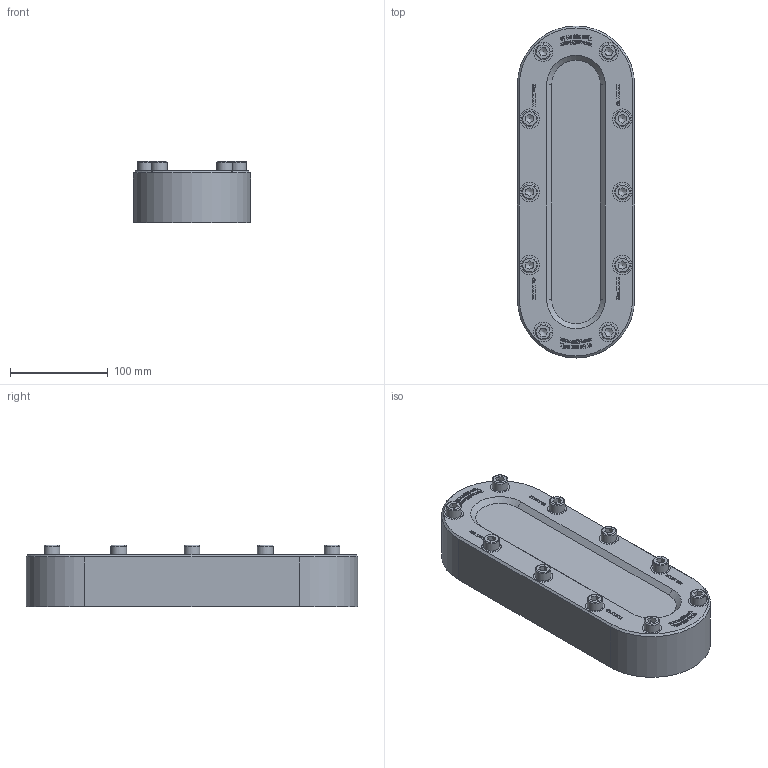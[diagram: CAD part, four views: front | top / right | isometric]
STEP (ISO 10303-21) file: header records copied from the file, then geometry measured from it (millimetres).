
FILE_DESCRIPTION(/* description */ (''),/* implementation_level */ '2;1');
FILE_NAME(/* name */ 'W:\Konstruktion_ACI\338\_STEP\338-340.stp',/* time_stamp */ '2022-03-11T14:26:51+01:00',/* author */ ('koslowksi'),/* organization */ (''),/* preprocessor_version */ 'ST-DEVELOPER v16.1',/* originating_system */ 'Autodesk Inventor 2016',/* authorisation */ '');
FILE_SCHEMA (('AUTOMOTIVE_DESIGN { 1 0 10303 214 3 1 1 }'));
Length unit declared in the file: millimetre
Products named in the file (1): 338-340
Bounding box: 120 x 340 x 62.9 mm (x, y, z)
Volume: 1668458.5 mm3; surface area: 139147.7 mm2
Topology: 1 solids, 1 shells, 1412 faces, 3829 edges, 2545 vertices
Faces by surface type: plane 926, bspline 438, cylinder 24, cone 14, torus 10
Full cylindrical faces by diameter (mm): 16 x10, 20 x10
Entity records: 47248 total; most frequent: CARTESIAN_POINT 13541, ORIENTED_EDGE 7558, DIRECTION 4857, EDGE_CURVE 3779, LINE 2779, VECTOR 2779, VERTEX_POINT 2535, EDGE_LOOP 1578
